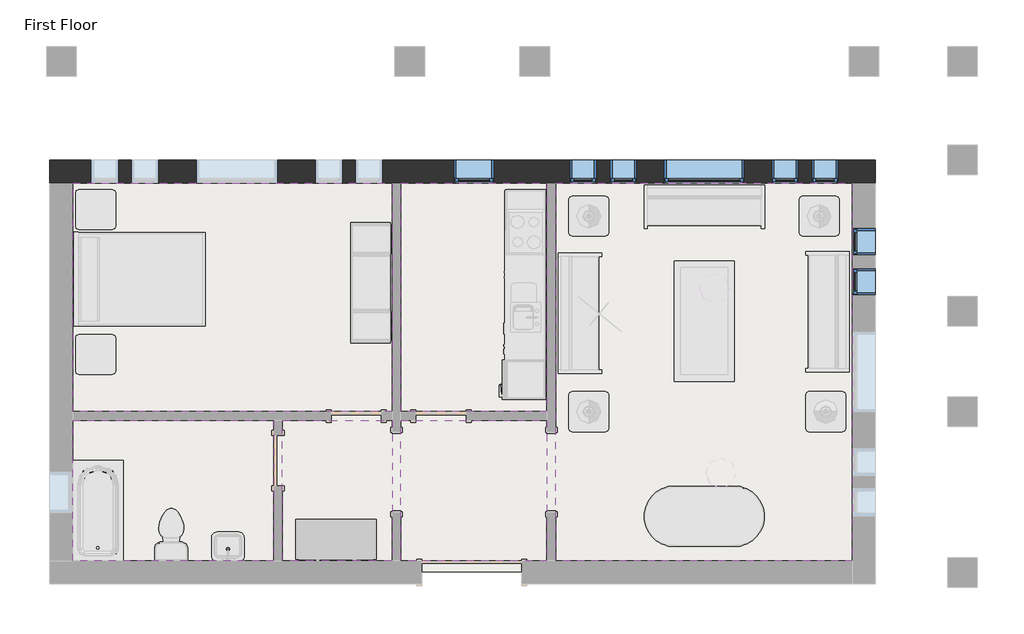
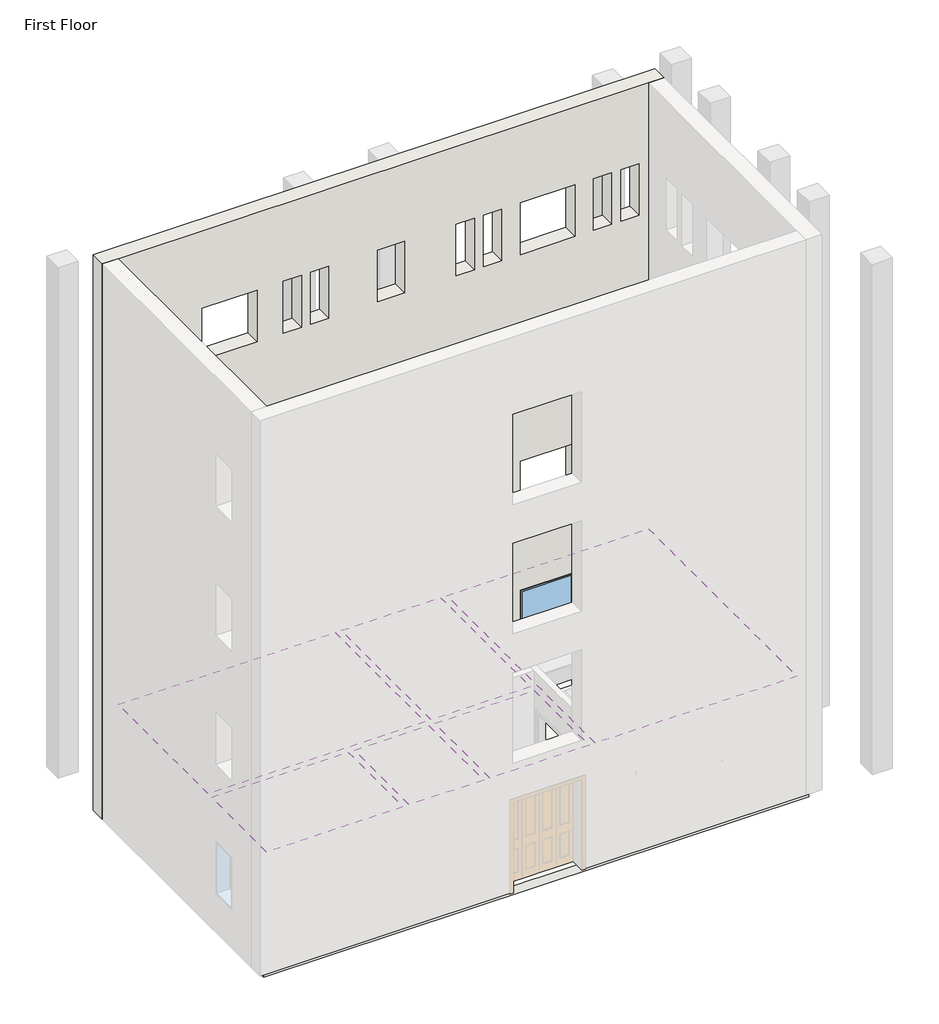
# One storey, part 2 of 3: 8 windows, 6 coverings, 1 slab, 1 wall.
"""IFC4 building model written with IfcOpenShell, lengths in millimetres."""

from ifc_helpers import new_model, si_unit, frame, origin, place, context, project, spatial, polyline, outline, extrude, faceted_brep, transform, mapped, element, save
from components import m_fixed_0406_x_1220mm_57fee329, m_fixed_0406_x_1220mm_85c28f40, m_fixed_0610_x_1220mm_2c28ef1d, m_fixed_1220_x_1220mm_e08ff7af

model = new_model("IFC4")

# Units and contexts
model_context = context("Model", 3, world=origin())
ifc_project = project(units=[si_unit("LENGTHUNIT", "METRE", prefix="MILLI")], contexts=[model_context])

# Site, building, storey
site = spatial("IfcSite", under=ifc_project)
building = spatial("IfcBuilding", under=site)
storey = spatial("IfcBuildingStorey", under=building, Name="First Floor", Elevation=0.0)

# Coverings
placement = place(None, origin())
element("IfcCovering", 1, ObjectType="GWB on Metal stud", at=placement, inside=storey, context=model_context, shape_type="SweptSolid", body=[
    extrude(outline(polyline([(-14935.3416203, 2406.1188386), (-10086.8416203, 2406.1188386), (-10086.8416203, -1070.3811614), (-14935.3416203, -1070.3811614), (-14935.3416203, 2406.1188386)])), frame((0.0, 0.0, 2590.0), z_axis=(0.0, 0.0, 1.0), x_axis=(1.0, 0.0, 0.0)), (0.0, 0.0, 1.0), 57.0),
])
element("IfcCovering", 2, ObjectType="GWB on Metal stud", at=placement, inside=storey, context=model_context, shape_type="SweptSolid", body=[
    extrude(outline(polyline([(-9951.3416203, -1070.3811614), (-9951.3416203, 2406.1188386), (-7733.0916203, 2406.1188386), (-7733.0916203, -1070.3811614), (-9951.3416203, -1070.3811614)])), frame((0.0, 0.0, 2590.0), z_axis=(0.0, 0.0, 1.0), x_axis=(1.0, 0.0, 0.0)), (0.0, 0.0, 1.0), 57.0),
])
element("IfcCovering", 3, ObjectType="GWB on Metal stud", at=placement, inside=storey, context=model_context, shape_type="SweptSolid", body=[
    extrude(outline(polyline([(-7597.5916203, -3339.8811614), (-7597.5916203, 2406.1188386), (-3093.3416203, 2406.1188386), (-3093.3416203, -3339.8811614), (-7597.5916203, -3339.8811614)])), frame((0.0, 0.0, 2590.0), z_axis=(0.0, 0.0, 1.0), x_axis=(1.0, 0.0, 0.0)), (0.0, 0.0, 1.0), 57.0),
])
element("IfcCovering", 4, ObjectType="GWB on Metal stud", at=placement, inside=storey, context=model_context, shape_type="SweptSolid", body=[
    extrude(outline(polyline([(-7733.0916203, -3339.8811614), (-9951.3416203, -3339.8811614), (-9951.3416203, -1205.8811614), (-7733.0916203, -1205.8811614), (-7733.0916203, -3339.8811614)])), frame((0.0, 0.0, 2590.0), z_axis=(0.0, 0.0, 1.0), x_axis=(1.0, 0.0, 0.0)), (0.0, 0.0, 1.0), 57.0),
])
element("IfcCovering", 5, ObjectType="GWB on Metal stud", at=placement, inside=storey, context=model_context, shape_type="SweptSolid", body=[
    extrude(outline(polyline([(-11887.3416203, -1205.8811614), (-11887.3416203, -3339.8811614), (-14935.3416203, -3339.8811614), (-14935.3416203, -1205.8811614), (-11887.3416203, -1205.8811614)])), frame((0.0, 0.0, 2590.0), z_axis=(0.0, 0.0, 1.0), x_axis=(1.0, 0.0, 0.0)), (0.0, 0.0, 1.0), 57.0),
])
element("IfcCovering", 6, ObjectType="GWB on Metal stud", at=placement, inside=storey, context=model_context, shape_type="SweptSolid", body=[
    extrude(outline(polyline([(-10086.8416203, -3339.8811614), (-11751.8416203, -3339.8811614), (-11751.8416203, -1205.8811614), (-10086.8416203, -1205.8811614), (-10086.8416203, -3339.8811614)])), frame((0.0, 0.0, 2590.0), z_axis=(0.0, 0.0, 1.0), x_axis=(1.0, 0.0, 0.0)), (0.0, 0.0, 1.0), 57.0),
])

# Slab
element("IfcSlab", 7, ObjectType="160mm Concrete With 50mm Metal Deck", at=placement, inside=storey, context=model_context, shape_type="SweptSolid", body=[
    extrude(outline(polyline([(-2928.3416203, 2571.1188386), (-2928.3416203, -3504.8811614), (-15100.3416203, -3504.8811614), (-15100.3416203, 2571.1188386), (-2928.3416203, 2571.1188386)])), frame((0.0, 0.0, -210.0), z_axis=(0.0, 0.0, 1.0), x_axis=(1.0, 0.0, 0.0)), (0.0, 0.0, 1.0), 210.0),
])

# Wall
element("IfcWall", 8, ObjectType="Exterior - Brick on Mtl. Stud", at=placement, inside=storey, context=model_context, shape_type="Brep", body=[
    faceted_brep([(-15285.3416203, 2406.1188386, 0.0), (-15100.3416203, 2406.1188386, 0.0), (-14935.3416203, 2406.1188386, 0.0), (-10086.8416203, 2406.1188386, 0.0), (-9951.3416203, 2406.1188386, 0.0), (-7733.0916203, 2406.1188386, 0.0), (-7597.5916203, 2406.1188386, 0.0), (-3093.3416203, 2406.1188386, 0.0), (-2928.3416203, 2406.1188386, 0.0), (-2743.3416203, 2406.1188386, 0.0), (-2743.3416203, 2406.1188386, 13107.0), (-3093.3416203, 2406.1188386, 13107.0), (-14935.3416203, 2406.1188386, 13107.0), (-15285.3416203, 2406.1188386, 13107.0), (-8537.1916203, 2406.1188386, 915.0), (-9147.1916203, 2406.1188386, 915.0), (-9147.1916203, 2406.1188386, 2135.0), (-8537.1916203, 2406.1188386, 2135.0), (-11833.3416203, 2406.1188386, 915.0), (-13053.3416203, 2406.1188386, 915.0), (-13053.3416203, 2406.1188386, 2135.0), (-11833.3416203, 2406.1188386, 2135.0), (-4735.4666203, 2406.1188386, 915.0), (-5955.4666203, 2406.1188386, 915.0), (-5955.4666203, 2406.1188386, 2135.0), (-4735.4666203, 2406.1188386, 2135.0), (-14247.3416203, 2406.1188386, 915.0), (-14653.3416203, 2406.1188386, 915.0), (-14653.3416203, 2406.1188386, 2135.0), (-14247.3416203, 2406.1188386, 2135.0), (-13637.3416203, 2406.1188386, 915.0), (-14043.3416203, 2406.1188386, 915.0), (-14043.3416203, 2406.1188386, 2135.0), (-13637.3416203, 2406.1188386, 2135.0), (-11249.3416203, 2406.1188386, 915.0), (-11249.3416203, 2406.1188386, 2135.0), (-10843.3416203, 2406.1188386, 2135.0), (-10843.3416203, 2406.1188386, 915.0), (-10639.3416203, 2406.1188386, 915.0), (-10639.3416203, 2406.1188386, 2135.0), (-10233.3416203, 2406.1188386, 2135.0), (-10233.3416203, 2406.1188386, 915.0), (-6370.3416203, 2406.1188386, 915.0), (-6776.3416203, 2406.1188386, 915.0), (-6776.3416203, 2406.1188386, 2135.0), (-6370.3416203, 2406.1188386, 2135.0), (-6980.3416203, 2406.1188386, 915.0), (-7386.3416203, 2406.1188386, 915.0), (-7386.3416203, 2406.1188386, 2135.0), (-6980.3416203, 2406.1188386, 2135.0), (-4320.5916203, 2406.1188386, 915.0), (-4320.5916203, 2406.1188386, 2135.0), (-3914.5916203, 2406.1188386, 2135.0), (-3914.5916203, 2406.1188386, 915.0), (-3710.5916203, 2406.1188386, 915.0), (-3710.5916203, 2406.1188386, 2135.0), (-3304.5916203, 2406.1188386, 2135.0), (-3304.5916203, 2406.1188386, 915.0), (-4320.5916203, 2406.1188386, 10059.0), (-4320.5916203, 2406.1188386, 11279.0), (-3914.5916203, 2406.1188386, 11279.0), (-3914.5916203, 2406.1188386, 10059.0), (-3710.5916203, 2406.1188386, 10059.0), (-3710.5916203, 2406.1188386, 11279.0), (-3304.5916203, 2406.1188386, 11279.0), (-3304.5916203, 2406.1188386, 10059.0), (-6370.3416203, 2406.1188386, 10059.0), (-6776.3416203, 2406.1188386, 10059.0), (-6776.3416203, 2406.1188386, 11279.0), (-6370.3416203, 2406.1188386, 11279.0), (-6980.3416203, 2406.1188386, 10059.0), (-7386.3416203, 2406.1188386, 10059.0), (-7386.3416203, 2406.1188386, 11279.0), (-6980.3416203, 2406.1188386, 11279.0), (-11249.3416203, 2406.1188386, 10059.0), (-11249.3416203, 2406.1188386, 11279.0), (-10843.3416203, 2406.1188386, 11279.0), (-10843.3416203, 2406.1188386, 10059.0), (-10639.3416203, 2406.1188386, 10059.0), (-10639.3416203, 2406.1188386, 11279.0), (-10233.3416203, 2406.1188386, 11279.0), (-10233.3416203, 2406.1188386, 10059.0), (-13637.3416203, 2406.1188386, 10059.0), (-14043.3416203, 2406.1188386, 10059.0), (-14043.3416203, 2406.1188386, 11279.0), (-13637.3416203, 2406.1188386, 11279.0), (-14247.3416203, 2406.1188386, 10059.0), (-14653.3416203, 2406.1188386, 10059.0), (-14653.3416203, 2406.1188386, 11279.0), (-14247.3416203, 2406.1188386, 11279.0), (-4735.4666203, 2406.1188386, 10059.0), (-5955.4666203, 2406.1188386, 10059.0), (-5955.4666203, 2406.1188386, 11279.0), (-4735.4666203, 2406.1188386, 11279.0), (-11833.3416203, 2406.1188386, 10059.0), (-13053.3416203, 2406.1188386, 10059.0), (-13053.3416203, 2406.1188386, 11279.0), (-11833.3416203, 2406.1188386, 11279.0), (-8537.1916203, 2406.1188386, 10059.0), (-9147.1916203, 2406.1188386, 10059.0), (-9147.1916203, 2406.1188386, 11279.0), (-8537.1916203, 2406.1188386, 11279.0), (-4320.5916203, 2406.1188386, 3963.0), (-4320.5916203, 2406.1188386, 5183.0), (-3914.5916203, 2406.1188386, 5183.0), (-3914.5916203, 2406.1188386, 3963.0), (-3710.5916203, 2406.1188386, 3963.0), (-3710.5916203, 2406.1188386, 5183.0), (-3304.5916203, 2406.1188386, 5183.0), (-3304.5916203, 2406.1188386, 3963.0), (-6370.3416203, 2406.1188386, 3963.0), (-6776.3416203, 2406.1188386, 3963.0), (-6776.3416203, 2406.1188386, 5183.0), (-6370.3416203, 2406.1188386, 5183.0), (-6980.3416203, 2406.1188386, 3963.0), (-7386.3416203, 2406.1188386, 3963.0), (-7386.3416203, 2406.1188386, 5183.0), (-6980.3416203, 2406.1188386, 5183.0), (-11249.3416203, 2406.1188386, 3963.0), (-11249.3416203, 2406.1188386, 5183.0), (-10843.3416203, 2406.1188386, 5183.0), (-10843.3416203, 2406.1188386, 3963.0), (-10639.3416203, 2406.1188386, 3963.0), (-10639.3416203, 2406.1188386, 5183.0), (-10233.3416203, 2406.1188386, 5183.0), (-10233.3416203, 2406.1188386, 3963.0), (-13637.3416203, 2406.1188386, 3963.0), (-14043.3416203, 2406.1188386, 3963.0), (-14043.3416203, 2406.1188386, 5183.0), (-13637.3416203, 2406.1188386, 5183.0), (-14247.3416203, 2406.1188386, 3963.0), (-14653.3416203, 2406.1188386, 3963.0), (-14653.3416203, 2406.1188386, 5183.0), (-14247.3416203, 2406.1188386, 5183.0), (-4735.4666203, 2406.1188386, 3963.0), (-5955.4666203, 2406.1188386, 3963.0), (-5955.4666203, 2406.1188386, 5183.0), (-4735.4666203, 2406.1188386, 5183.0), (-11833.3416203, 2406.1188386, 3963.0), (-13053.3416203, 2406.1188386, 3963.0), (-13053.3416203, 2406.1188386, 5183.0), (-11833.3416203, 2406.1188386, 5183.0), (-8537.1916203, 2406.1188386, 3963.0), (-9147.1916203, 2406.1188386, 3963.0), (-9147.1916203, 2406.1188386, 5183.0), (-8537.1916203, 2406.1188386, 5183.0), (-4320.5916203, 2406.1188386, 7011.0), (-4320.5916203, 2406.1188386, 8231.0), (-3914.5916203, 2406.1188386, 8231.0), (-3914.5916203, 2406.1188386, 7011.0), (-3710.5916203, 2406.1188386, 7011.0), (-3710.5916203, 2406.1188386, 8231.0), (-3304.5916203, 2406.1188386, 8231.0), (-3304.5916203, 2406.1188386, 7011.0), (-6370.3416203, 2406.1188386, 7011.0), (-6776.3416203, 2406.1188386, 7011.0), (-6776.3416203, 2406.1188386, 8231.0), (-6370.3416203, 2406.1188386, 8231.0), (-6980.3416203, 2406.1188386, 7011.0), (-7386.3416203, 2406.1188386, 7011.0), (-7386.3416203, 2406.1188386, 8231.0), (-6980.3416203, 2406.1188386, 8231.0), (-11249.3416203, 2406.1188386, 7011.0), (-11249.3416203, 2406.1188386, 8231.0), (-10843.3416203, 2406.1188386, 8231.0), (-10843.3416203, 2406.1188386, 7011.0), (-10639.3416203, 2406.1188386, 7011.0), (-10639.3416203, 2406.1188386, 8231.0), (-10233.3416203, 2406.1188386, 8231.0), (-10233.3416203, 2406.1188386, 7011.0), (-13637.3416203, 2406.1188386, 7011.0), (-14043.3416203, 2406.1188386, 7011.0), (-14043.3416203, 2406.1188386, 8231.0), (-13637.3416203, 2406.1188386, 8231.0), (-14247.3416203, 2406.1188386, 7011.0), (-14653.3416203, 2406.1188386, 7011.0), (-14653.3416203, 2406.1188386, 8231.0), (-14247.3416203, 2406.1188386, 8231.0), (-4735.4666203, 2406.1188386, 7011.0), (-5955.4666203, 2406.1188386, 7011.0), (-5955.4666203, 2406.1188386, 8231.0), (-4735.4666203, 2406.1188386, 8231.0), (-11833.3416203, 2406.1188386, 7011.0), (-13053.3416203, 2406.1188386, 7011.0), (-13053.3416203, 2406.1188386, 8231.0), (-11833.3416203, 2406.1188386, 8231.0), (-8537.1916203, 2406.1188386, 7011.0), (-9147.1916203, 2406.1188386, 7011.0), (-9147.1916203, 2406.1188386, 8231.0), (-8537.1916203, 2406.1188386, 8231.0), (-15285.3416203, 2756.1188386, 0.0), (-15285.3416203, 2756.1188386, 13107.0), (-2743.3416203, 2756.1188386, 13107.0), (-2743.3416203, 2756.1188386, 0.0), (-2928.3416203, 2756.1188386, 0.0), (-15100.3416203, 2756.1188386, 0.0), (-8537.1916203, 2756.1188386, 915.0), (-8537.1916203, 2756.1188386, 2135.0), (-9147.1916203, 2756.1188386, 2135.0), (-9147.1916203, 2756.1188386, 915.0), (-11833.3416203, 2756.1188386, 915.0), (-11833.3416203, 2756.1188386, 2135.0), (-13053.3416203, 2756.1188386, 2135.0), (-13053.3416203, 2756.1188386, 915.0), (-4735.4666203, 2756.1188386, 915.0), (-4735.4666203, 2756.1188386, 2135.0), (-5955.4666203, 2756.1188386, 2135.0), (-5955.4666203, 2756.1188386, 915.0), (-14247.3416203, 2756.1188386, 915.0), (-14247.3416203, 2756.1188386, 2135.0), (-14653.3416203, 2756.1188386, 2135.0), (-14653.3416203, 2756.1188386, 915.0), (-13637.3416203, 2756.1188386, 915.0), (-13637.3416203, 2756.1188386, 2135.0), (-14043.3416203, 2756.1188386, 2135.0), (-14043.3416203, 2756.1188386, 915.0), (-11249.3416203, 2756.1188386, 915.0), (-10843.3416203, 2756.1188386, 915.0), (-10843.3416203, 2756.1188386, 2135.0), (-11249.3416203, 2756.1188386, 2135.0), (-10639.3416203, 2756.1188386, 915.0), (-10233.3416203, 2756.1188386, 915.0), (-10233.3416203, 2756.1188386, 2135.0), (-10639.3416203, 2756.1188386, 2135.0), (-6370.3416203, 2756.1188386, 915.0), (-6370.3416203, 2756.1188386, 2135.0), (-6776.3416203, 2756.1188386, 2135.0), (-6776.3416203, 2756.1188386, 915.0), (-6980.3416203, 2756.1188386, 915.0), (-6980.3416203, 2756.1188386, 2135.0), (-7386.3416203, 2756.1188386, 2135.0), (-7386.3416203, 2756.1188386, 915.0), (-4320.5916203, 2756.1188386, 915.0), (-3914.5916203, 2756.1188386, 915.0), (-3914.5916203, 2756.1188386, 2135.0), (-4320.5916203, 2756.1188386, 2135.0), (-3710.5916203, 2756.1188386, 915.0), (-3304.5916203, 2756.1188386, 915.0), (-3304.5916203, 2756.1188386, 2135.0), (-3710.5916203, 2756.1188386, 2135.0), (-4320.5916203, 2756.1188386, 10059.0), (-3914.5916203, 2756.1188386, 10059.0), (-3914.5916203, 2756.1188386, 11279.0), (-4320.5916203, 2756.1188386, 11279.0), (-3710.5916203, 2756.1188386, 10059.0), (-3304.5916203, 2756.1188386, 10059.0), (-3304.5916203, 2756.1188386, 11279.0), (-3710.5916203, 2756.1188386, 11279.0), (-6370.3416203, 2756.1188386, 10059.0), (-6370.3416203, 2756.1188386, 11279.0), (-6776.3416203, 2756.1188386, 11279.0), (-6776.3416203, 2756.1188386, 10059.0), (-6980.3416203, 2756.1188386, 10059.0), (-6980.3416203, 2756.1188386, 11279.0), (-7386.3416203, 2756.1188386, 11279.0), (-7386.3416203, 2756.1188386, 10059.0), (-11249.3416203, 2756.1188386, 10059.0), (-10843.3416203, 2756.1188386, 10059.0), (-10843.3416203, 2756.1188386, 11279.0), (-11249.3416203, 2756.1188386, 11279.0), (-10639.3416203, 2756.1188386, 10059.0), (-10233.3416203, 2756.1188386, 10059.0), (-10233.3416203, 2756.1188386, 11279.0), (-10639.3416203, 2756.1188386, 11279.0), (-13637.3416203, 2756.1188386, 10059.0), (-13637.3416203, 2756.1188386, 11279.0), (-14043.3416203, 2756.1188386, 11279.0), (-14043.3416203, 2756.1188386, 10059.0), (-14247.3416203, 2756.1188386, 10059.0), (-14247.3416203, 2756.1188386, 11279.0), (-14653.3416203, 2756.1188386, 11279.0), (-14653.3416203, 2756.1188386, 10059.0), (-4735.4666203, 2756.1188386, 10059.0), (-4735.4666203, 2756.1188386, 11279.0), (-5955.4666203, 2756.1188386, 11279.0), (-5955.4666203, 2756.1188386, 10059.0), (-11833.3416203, 2756.1188386, 10059.0), (-11833.3416203, 2756.1188386, 11279.0), (-13053.3416203, 2756.1188386, 11279.0), (-13053.3416203, 2756.1188386, 10059.0), (-8537.1916203, 2756.1188386, 10059.0), (-8537.1916203, 2756.1188386, 11279.0), (-9147.1916203, 2756.1188386, 11279.0), (-9147.1916203, 2756.1188386, 10059.0), (-4320.5916203, 2756.1188386, 3963.0), (-3914.5916203, 2756.1188386, 3963.0), (-3914.5916203, 2756.1188386, 5183.0), (-4320.5916203, 2756.1188386, 5183.0), (-3710.5916203, 2756.1188386, 3963.0), (-3304.5916203, 2756.1188386, 3963.0), (-3304.5916203, 2756.1188386, 5183.0), (-3710.5916203, 2756.1188386, 5183.0), (-6370.3416203, 2756.1188386, 3963.0), (-6370.3416203, 2756.1188386, 5183.0), (-6776.3416203, 2756.1188386, 5183.0), (-6776.3416203, 2756.1188386, 3963.0), (-6980.3416203, 2756.1188386, 3963.0), (-6980.3416203, 2756.1188386, 5183.0), (-7386.3416203, 2756.1188386, 5183.0), (-7386.3416203, 2756.1188386, 3963.0), (-11249.3416203, 2756.1188386, 3963.0), (-10843.3416203, 2756.1188386, 3963.0), (-10843.3416203, 2756.1188386, 5183.0), (-11249.3416203, 2756.1188386, 5183.0), (-10639.3416203, 2756.1188386, 3963.0), (-10233.3416203, 2756.1188386, 3963.0), (-10233.3416203, 2756.1188386, 5183.0), (-10639.3416203, 2756.1188386, 5183.0), (-13637.3416203, 2756.1188386, 3963.0), (-13637.3416203, 2756.1188386, 5183.0), (-14043.3416203, 2756.1188386, 5183.0), (-14043.3416203, 2756.1188386, 3963.0), (-14247.3416203, 2756.1188386, 3963.0), (-14247.3416203, 2756.1188386, 5183.0), (-14653.3416203, 2756.1188386, 5183.0), (-14653.3416203, 2756.1188386, 3963.0), (-4735.4666203, 2756.1188386, 3963.0), (-4735.4666203, 2756.1188386, 5183.0), (-5955.4666203, 2756.1188386, 5183.0), (-5955.4666203, 2756.1188386, 3963.0), (-11833.3416203, 2756.1188386, 3963.0), (-11833.3416203, 2756.1188386, 5183.0), (-13053.3416203, 2756.1188386, 5183.0), (-13053.3416203, 2756.1188386, 3963.0), (-8537.1916203, 2756.1188386, 3963.0), (-8537.1916203, 2756.1188386, 5183.0), (-9147.1916203, 2756.1188386, 5183.0), (-9147.1916203, 2756.1188386, 3963.0), (-4320.5916203, 2756.1188386, 7011.0), (-3914.5916203, 2756.1188386, 7011.0), (-3914.5916203, 2756.1188386, 8231.0), (-4320.5916203, 2756.1188386, 8231.0), (-3710.5916203, 2756.1188386, 7011.0), (-3304.5916203, 2756.1188386, 7011.0), (-3304.5916203, 2756.1188386, 8231.0), (-3710.5916203, 2756.1188386, 8231.0), (-6370.3416203, 2756.1188386, 7011.0), (-6370.3416203, 2756.1188386, 8231.0), (-6776.3416203, 2756.1188386, 8231.0), (-6776.3416203, 2756.1188386, 7011.0), (-6980.3416203, 2756.1188386, 7011.0), (-6980.3416203, 2756.1188386, 8231.0), (-7386.3416203, 2756.1188386, 8231.0), (-7386.3416203, 2756.1188386, 7011.0), (-11249.3416203, 2756.1188386, 7011.0), (-10843.3416203, 2756.1188386, 7011.0), (-10843.3416203, 2756.1188386, 8231.0), (-11249.3416203, 2756.1188386, 8231.0), (-10639.3416203, 2756.1188386, 7011.0), (-10233.3416203, 2756.1188386, 7011.0), (-10233.3416203, 2756.1188386, 8231.0), (-10639.3416203, 2756.1188386, 8231.0), (-13637.3416203, 2756.1188386, 7011.0), (-13637.3416203, 2756.1188386, 8231.0), (-14043.3416203, 2756.1188386, 8231.0), (-14043.3416203, 2756.1188386, 7011.0), (-14247.3416203, 2756.1188386, 7011.0), (-14247.3416203, 2756.1188386, 8231.0), (-14653.3416203, 2756.1188386, 8231.0), (-14653.3416203, 2756.1188386, 7011.0), (-4735.4666203, 2756.1188386, 7011.0), (-4735.4666203, 2756.1188386, 8231.0), (-5955.4666203, 2756.1188386, 8231.0), (-5955.4666203, 2756.1188386, 7011.0), (-11833.3416203, 2756.1188386, 7011.0), (-11833.3416203, 2756.1188386, 8231.0), (-13053.3416203, 2756.1188386, 8231.0), (-13053.3416203, 2756.1188386, 7011.0), (-8537.1916203, 2756.1188386, 7011.0), (-8537.1916203, 2756.1188386, 8231.0), (-9147.1916203, 2756.1188386, 8231.0), (-9147.1916203, 2756.1188386, 7011.0), (-2743.3416203, 2571.1188386, 0.0), (-15285.3416203, 2571.1188386, 0.0), (-15100.3416203, 2571.1188386, 0.0), (-2928.3416203, 2571.1188386, 0.0)], [[[0, 1, 2, 3, 4, 5, 6, 7, 8, 9, 10, 11, 12, 13], [14, 15, 16, 17], [18, 19, 20, 21], [22, 23, 24, 25], [26, 27, 28, 29], [30, 31, 32, 33], [34, 35, 36, 37], [38, 39, 40, 41], [42, 43, 44, 45], [46, 47, 48, 49], [50, 51, 52, 53], [54, 55, 56, 57], [58, 59, 60, 61], [62, 63, 64, 65], [66, 67, 68, 69], [70, 71, 72, 73], [74, 75, 76, 77], [78, 79, 80, 81], [82, 83, 84, 85], [86, 87, 88, 89], [90, 91, 92, 93], [94, 95, 96, 97], [98, 99, 100, 101], [102, 103, 104, 105], [106, 107, 108, 109], [110, 111, 112, 113], [114, 115, 116, 117], [118, 119, 120, 121], [122, 123, 124, 125], [126, 127, 128, 129], [130, 131, 132, 133], [134, 135, 136, 137], [138, 139, 140, 141], [142, 143, 144, 145], [146, 147, 148, 149], [150, 151, 152, 153], [154, 155, 156, 157], [158, 159, 160, 161], [162, 163, 164, 165], [166, 167, 168, 169], [170, 171, 172, 173], [174, 175, 176, 177], [178, 179, 180, 181], [182, 183, 184, 185], [186, 187, 188, 189]], [[190, 191, 192, 193, 194, 195], [196, 197, 198, 199], [200, 201, 202, 203], [204, 205, 206, 207], [208, 209, 210, 211], [212, 213, 214, 215], [216, 217, 218, 219], [220, 221, 222, 223], [224, 225, 226, 227], [228, 229, 230, 231], [232, 233, 234, 235], [236, 237, 238, 239], [240, 241, 242, 243], [244, 245, 246, 247], [248, 249, 250, 251], [252, 253, 254, 255], [256, 257, 258, 259], [260, 261, 262, 263], [264, 265, 266, 267], [268, 269, 270, 271], [272, 273, 274, 275], [276, 277, 278, 279], [280, 281, 282, 283], [284, 285, 286, 287], [288, 289, 290, 291], [292, 293, 294, 295], [296, 297, 298, 299], [300, 301, 302, 303], [304, 305, 306, 307], [308, 309, 310, 311], [312, 313, 314, 315], [316, 317, 318, 319], [320, 321, 322, 323], [324, 325, 326, 327], [328, 329, 330, 331], [332, 333, 334, 335], [336, 337, 338, 339], [340, 341, 342, 343], [344, 345, 346, 347], [348, 349, 350, 351], [352, 353, 354, 355], [356, 357, 358, 359], [360, 361, 362, 363], [364, 365, 366, 367], [368, 369, 370, 371]], [[13, 12, 11, 10, 192, 191]], [[10, 9, 372, 193, 192]], [[0, 13, 191, 190, 373]], [[197, 196, 14, 17]], [[198, 197, 17, 16]], [[199, 198, 16, 15]], [[196, 199, 15, 14]], [[201, 200, 18, 21]], [[202, 201, 21, 20]], [[203, 202, 20, 19]], [[200, 203, 19, 18]], [[205, 204, 22, 25]], [[206, 205, 25, 24]], [[207, 206, 24, 23]], [[204, 207, 23, 22]], [[209, 208, 26, 29]], [[210, 209, 29, 28]], [[211, 210, 28, 27]], [[208, 211, 27, 26]], [[213, 212, 30, 33]], [[214, 213, 33, 32]], [[215, 214, 32, 31]], [[212, 215, 31, 30]], [[35, 34, 216, 219]], [[36, 35, 219, 218]], [[37, 36, 218, 217]], [[34, 37, 217, 216]], [[39, 38, 220, 223]], [[40, 39, 223, 222]], [[41, 40, 222, 221]], [[38, 41, 221, 220]], [[225, 224, 42, 45]], [[226, 225, 45, 44]], [[227, 226, 44, 43]], [[224, 227, 43, 42]], [[229, 228, 46, 49]], [[230, 229, 49, 48]], [[231, 230, 48, 47]], [[228, 231, 47, 46]], [[51, 50, 232, 235]], [[52, 51, 235, 234]], [[53, 52, 234, 233]], [[50, 53, 233, 232]], [[55, 54, 236, 239]], [[56, 55, 239, 238]], [[57, 56, 238, 237]], [[54, 57, 237, 236]], [[1, 0, 373, 374]], [[373, 190, 195, 374]], [[9, 8, 375, 372]], [[195, 194, 375, 374]], [[194, 193, 372, 375]], [[8, 7, 6, 5, 4, 3, 2, 1, 374, 375]], [[59, 58, 240, 243]], [[60, 59, 243, 242]], [[61, 60, 242, 241]], [[58, 61, 241, 240]], [[63, 62, 244, 247]], [[64, 63, 247, 246]], [[65, 64, 246, 245]], [[62, 65, 245, 244]], [[249, 248, 66, 69]], [[250, 249, 69, 68]], [[251, 250, 68, 67]], [[248, 251, 67, 66]], [[253, 252, 70, 73]], [[254, 253, 73, 72]], [[255, 254, 72, 71]], [[252, 255, 71, 70]], [[75, 74, 256, 259]], [[76, 75, 259, 258]], [[77, 76, 258, 257]], [[74, 77, 257, 256]], [[79, 78, 260, 263]], [[80, 79, 263, 262]], [[81, 80, 262, 261]], [[78, 81, 261, 260]], [[265, 264, 82, 85]], [[266, 265, 85, 84]], [[267, 266, 84, 83]], [[264, 267, 83, 82]], [[269, 268, 86, 89]], [[270, 269, 89, 88]], [[271, 270, 88, 87]], [[268, 271, 87, 86]], [[273, 272, 90, 93]], [[274, 273, 93, 92]], [[275, 274, 92, 91]], [[272, 275, 91, 90]], [[277, 276, 94, 97]], [[278, 277, 97, 96]], [[279, 278, 96, 95]], [[276, 279, 95, 94]], [[281, 280, 98, 101]], [[282, 281, 101, 100]], [[283, 282, 100, 99]], [[280, 283, 99, 98]], [[103, 102, 284, 287]], [[104, 103, 287, 286]], [[105, 104, 286, 285]], [[102, 105, 285, 284]], [[107, 106, 288, 291]], [[108, 107, 291, 290]], [[109, 108, 290, 289]], [[106, 109, 289, 288]], [[293, 292, 110, 113]], [[294, 293, 113, 112]], [[295, 294, 112, 111]], [[292, 295, 111, 110]], [[297, 296, 114, 117]], [[298, 297, 117, 116]], [[299, 298, 116, 115]], [[296, 299, 115, 114]], [[119, 118, 300, 303]], [[120, 119, 303, 302]], [[121, 120, 302, 301]], [[118, 121, 301, 300]], [[123, 122, 304, 307]], [[124, 123, 307, 306]], [[125, 124, 306, 305]], [[122, 125, 305, 304]], [[309, 308, 126, 129]], [[310, 309, 129, 128]], [[311, 310, 128, 127]], [[308, 311, 127, 126]], [[313, 312, 130, 133]], [[314, 313, 133, 132]], [[315, 314, 132, 131]], [[312, 315, 131, 130]], [[317, 316, 134, 137]], [[318, 317, 137, 136]], [[319, 318, 136, 135]], [[316, 319, 135, 134]], [[321, 320, 138, 141]], [[322, 321, 141, 140]], [[323, 322, 140, 139]], [[320, 323, 139, 138]], [[325, 324, 142, 145]], [[326, 325, 145, 144]], [[327, 326, 144, 143]], [[324, 327, 143, 142]], [[147, 146, 328, 331]], [[148, 147, 331, 330]], [[149, 148, 330, 329]], [[146, 149, 329, 328]], [[151, 150, 332, 335]], [[152, 151, 335, 334]], [[153, 152, 334, 333]], [[150, 153, 333, 332]], [[337, 336, 154, 157]], [[338, 337, 157, 156]], [[339, 338, 156, 155]], [[336, 339, 155, 154]], [[341, 340, 158, 161]], [[342, 341, 161, 160]], [[343, 342, 160, 159]], [[340, 343, 159, 158]], [[163, 162, 344, 347]], [[164, 163, 347, 346]], [[165, 164, 346, 345]], [[162, 165, 345, 344]], [[167, 166, 348, 351]], [[168, 167, 351, 350]], [[169, 168, 350, 349]], [[166, 169, 349, 348]], [[353, 352, 170, 173]], [[354, 353, 173, 172]], [[355, 354, 172, 171]], [[352, 355, 171, 170]], [[357, 356, 174, 177]], [[358, 357, 177, 176]], [[359, 358, 176, 175]], [[356, 359, 175, 174]], [[361, 360, 178, 181]], [[362, 361, 181, 180]], [[363, 362, 180, 179]], [[360, 363, 179, 178]], [[365, 364, 182, 185]], [[366, 365, 185, 184]], [[367, 366, 184, 183]], [[364, 367, 183, 182]], [[369, 368, 186, 189]], [[370, 369, 189, 188]], [[371, 370, 188, 187]], [[368, 371, 187, 186]]]),
])

# Windows
m_fixed_0406_x_1220mm_shape = m_fixed_0406_x_1220mm_57fee329(model_context)
element("IfcWindow", 9, ObjectType="M_Fixed : 0406 x 1220mm", at=placement, inside=storey, context=model_context, shape_type="MappedRepresentation", body=[
    mapped(m_fixed_0406_x_1220mm_shape, transform((-7183.3416203, 2594.1188386, 0.0), x_axis=(-1.0, 0.0, 0.0), y_axis=(0.0, -1.0, 0.0), z_axis=(0.0, 0.0, 1.0))),
])
element("IfcWindow", 10, ObjectType="M_Fixed : 0406 x 1220mm", at=placement, inside=storey, context=model_context, shape_type="MappedRepresentation", body=[
    mapped(m_fixed_0406_x_1220mm_shape, transform((-6573.3416203, 2594.1188386, 0.0), x_axis=(-1.0, 0.0, 0.0), y_axis=(0.0, -1.0, 0.0), z_axis=(0.0, 0.0, 1.0))),
])
element("IfcWindow", 11, ObjectType="M_Fixed : 0406 x 1220mm", at=placement, inside=storey, context=model_context, shape_type="MappedRepresentation", body=[
    mapped(m_fixed_0406_x_1220mm_shape, transform((-2905.3416203, 1514.1188386, 0.0), x_axis=(0.0, 1.0, 0.0), y_axis=(-1.0, 0.0, 0.0), z_axis=(0.0, 0.0, 1.0))),
])
element("IfcWindow", 12, ObjectType="M_Fixed : 0406 x 1220mm", at=placement, inside=storey, context=model_context, shape_type="MappedRepresentation", body=[
    mapped(m_fixed_0406_x_1220mm_shape, transform((-2905.3416203, 904.1188386, 0.0), x_axis=(0.0, 1.0, 0.0), y_axis=(-1.0, 0.0, 0.0), z_axis=(0.0, 0.0, 1.0))),
])
m_fixed_0406_x_1220mm_2_shape = m_fixed_0406_x_1220mm_85c28f40(model_context)
element("IfcWindow", 13, ObjectType="M_Fixed : 0406 x 1220mm", at=placement, inside=storey, context=model_context, shape_type="MappedRepresentation", body=[
    mapped(m_fixed_0406_x_1220mm_2_shape, transform((-3507.5916203, 2594.1188386, 0.0), x_axis=(1.0, 0.0, 0.0), y_axis=(0.0, 1.0, 0.0), z_axis=(0.0, 0.0, 1.0))),
])
element("IfcWindow", 14, ObjectType="M_Fixed : 0406 x 1220mm", at=placement, inside=storey, context=model_context, shape_type="MappedRepresentation", body=[
    mapped(m_fixed_0406_x_1220mm_2_shape, transform((-4117.5916203, 2594.1188386, 0.0), x_axis=(1.0, 0.0, 0.0), y_axis=(0.0, 1.0, 0.0), z_axis=(0.0, 0.0, 1.0))),
])
m_fixed_0610_x_1220mm_shape = m_fixed_0610_x_1220mm_2c28ef1d(model_context)
element("IfcWindow", 15, ObjectType="M_Fixed : 0610 x 1220mm", at=placement, inside=storey, context=model_context, shape_type="MappedRepresentation", body=[
    mapped(m_fixed_0610_x_1220mm_shape, transform((-8842.1916203, 2594.1188386, 0.0), x_axis=(-1.0, 0.0, 0.0), y_axis=(0.0, -1.0, 0.0), z_axis=(0.0, 0.0, 1.0))),
])
m_fixed_1220_x_1220mm_shape = m_fixed_1220_x_1220mm_e08ff7af(model_context)
element("IfcWindow", 16, ObjectType="M_Fixed : 1220 x 1220mm", at=placement, inside=storey, context=model_context, shape_type="MappedRepresentation", body=[
    mapped(m_fixed_1220_x_1220mm_shape, transform((-5345.4666203, 2594.1188386, 0.0), x_axis=(-1.0, 0.0, 0.0), y_axis=(0.0, -1.0, 0.0), z_axis=(0.0, 0.0, 1.0))),
])

save(model, "model.ifc")
